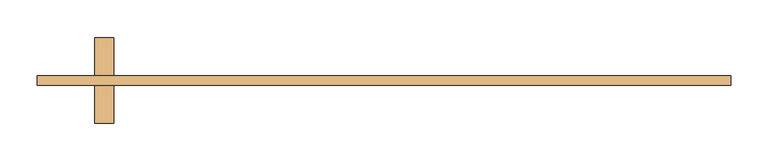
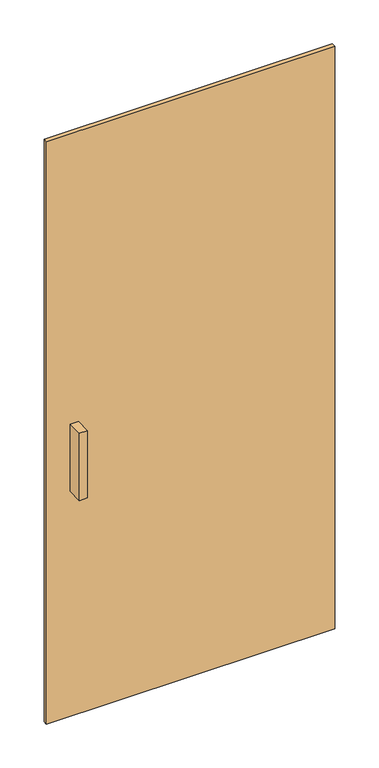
"""IFC4 building model written with IfcOpenShell, lengths in millimetres: door geometry, M_Dveře, obvodový plášť, jednoduché zasklení : M_Dveře, obvodový plášť, jednoduché zasklení."""

import ifcopenshell
import ifcopenshell.guid

model = None  # the IFC model being written
_history = None  # IfcOwnerHistory: only IFC2X3 demands one
_inside = {}  # id of a spatial element -> (the spatial element, [elements in it])
_under = {}  # id of a project, library or spatial element -> (it, [spatial elements below it])
_declared = {}  # id of a project -> (the project, [libraries it declares])
_typed = {}  # id of a type object -> (the type object, [elements of that type])
_made_of = {}  # id of a material, layer set ... -> (it, [elements and type objects made of it])


def new_model(schema):
    """Start an empty IFC model of exactly this schema.

    Asked for "IFC4X3", IfcOpenShell would pick the latest addendum, in which some entities
    have other attributes; the version numbers below select the first issue.
    IFC2X3 requires an IfcOwnerHistory on every rooted entity: one is made here for all.
    """
    global model, _history
    if schema == "IFC4X3":
        model = ifcopenshell.file(schema_version=(4, 3, 0, 0))
    else:
        model = ifcopenshell.file(schema=schema)
    _inside.clear()
    _under.clear()
    _declared.clear()
    _typed.clear()
    _made_of.clear()
    _history = None
    if model.schema == "IFC2X3":
        org = make("IfcOrganization", Name="unknown")
        user = make(
            "IfcPersonAndOrganization",
            ThePerson=make("IfcPerson", FamilyName="unknown"),
            TheOrganization=org,
        )
        app = make(
            "IfcApplication",
            ApplicationDeveloper=org,
            Version="unknown",
            ApplicationFullName="unknown",
            ApplicationIdentifier="unknown",
        )
        _history = make(
            "IfcOwnerHistory",
            OwningUser=user,
            OwningApplication=app,
            ChangeAction="ADDED",
            CreationDate=0,
        )
    return model


def make(cls, **values):
    """One entity of the class cls with the attributes given. An attribute that is None is left unset."""
    return model.create_entity(
        cls, **{name: value for name, value in values.items() if value is not None}
    )


def rooted(cls, **values):
    """An entity with a GlobalId (a new one), such as an element, a storey or a relation."""
    return make(cls, GlobalId=ifcopenshell.guid.new(), OwnerHistory=_history, **values)


def si_unit(unit_type, name, prefix=None):
    """IfcSIUnit, for example si_unit("LENGTHUNIT", "METRE", prefix="MILLI")."""
    return make("IfcSIUnit", UnitType=unit_type, Prefix=prefix, Name=name)


def assignment(units):
    """IfcUnitAssignment: the units of a project."""
    return None if units is None else make("IfcUnitAssignment", Units=units)


def point(xyz):
    """IfcCartesianPoint."""
    return None if xyz is None else make("IfcCartesianPoint", Coordinates=xyz)


def direction(xyz):
    """IfcDirection."""
    return None if xyz is None else make("IfcDirection", DirectionRatios=xyz)


def frame(location, z_axis=None, x_axis=None):
    """IfcAxis2Placement3D, a coordinate frame: its origin and axes. An axis left out is left unset."""
    return make(
        "IfcAxis2Placement3D",
        Location=point(location),
        Axis=direction(z_axis),
        RefDirection=direction(x_axis),
    )


def origin():
    """The frame at (0, 0, 0) with its axes left unset."""
    return frame((0.0, 0.0, 0.0))


def origin_with_axes():
    """The frame at (0, 0, 0) with the z axis (0, 0, 1) and the x axis (1, 0, 0) written out."""
    return frame((0.0, 0.0, 0.0), z_axis=(0.0, 0.0, 1.0), x_axis=(1.0, 0.0, 0.0))


def place(relative_to, where):
    """IfcLocalPlacement: puts the frame where relative to a parent placement (None: the world)."""
    return make(
        "IfcLocalPlacement", PlacementRelTo=relative_to, RelativePlacement=where
    )


def context(
    kind, dimensions, precision=None, world=None, true_north=None, identifier=None
):
    """IfcGeometricRepresentationContext, for example the 3D "Model" context."""
    return make(
        "IfcGeometricRepresentationContext",
        ContextIdentifier=identifier,
        ContextType=kind,
        CoordinateSpaceDimension=dimensions,
        Precision=precision,
        WorldCoordinateSystem=world,
        TrueNorth=true_north,
    )


def project(units=None, contexts=None):
    """IfcProject with its units and contexts."""
    return rooted(
        "IfcProject",
        Name="project",
        RepresentationContexts=contexts,
        UnitsInContext=assignment(units),
    )


def spatial(cls, under=None, at=None, **own):
    """A site, building, storey or space (cls), placed at a placement, below another one or the project."""
    s = rooted(cls, ObjectPlacement=at, **own)
    if under is not None:
        _under.setdefault(under.id(), (under, []))[1].append(s)
    return s


def polyline(points):
    """IfcPolyline through the points."""
    return make("IfcPolyline", Points=[point(p) for p in points])


def outline(outer, holes=None, kind="AREA"):
    """IfcArbitraryClosedProfileDef: a profile drawn as a closed curve; with holes, ...WithVoids."""
    if holes is None:
        return make("IfcArbitraryClosedProfileDef", ProfileType=kind, OuterCurve=outer)
    return make(
        "IfcArbitraryProfileDefWithVoids",
        ProfileType=kind,
        OuterCurve=outer,
        InnerCurves=holes,
    )


def extrude(swept, where, along, depth):
    """IfcExtrudedAreaSolid: the profile swept, set in the frame where, extruded along a direction by depth."""
    return make(
        "IfcExtrudedAreaSolid",
        SweptArea=swept,
        Position=where,
        ExtrudedDirection=direction(along),
        Depth=depth,
    )


def shape(context_of_items, identifier, shape_type, items):
    """IfcShapeRepresentation: the items that make up one representation, for example the "Body"."""
    return make(
        "IfcShapeRepresentation",
        ContextOfItems=context_of_items,
        RepresentationIdentifier=identifier,
        RepresentationType=shape_type,
        Items=items,
    )


def source(mapping_origin, context_of_items, identifier, shape_type, items):
    """IfcRepresentationMap: a shape defined once, which mapped items show again and again."""
    return make(
        "IfcRepresentationMap",
        MappingOrigin=mapping_origin,
        MappedRepresentation=shape(context_of_items, identifier, shape_type, items),
    )


def transform(
    local_origin,
    x_axis=None,
    y_axis=None,
    z_axis=None,
    scale=None,
    scale2=None,
    scale3=None,
    uniform=True,
):
    """IfcCartesianTransformationOperator3D, or its non-uniform kind. x_axis, y_axis, z_axis: its Axis1, 2, 3."""
    if uniform:
        return make(
            "IfcCartesianTransformationOperator3D",
            Axis1=direction(x_axis),
            Axis2=direction(y_axis),
            LocalOrigin=point(local_origin),
            Scale=scale,
            Axis3=direction(z_axis),
        )
    return make(
        "IfcCartesianTransformationOperator3DnonUniform",
        Axis1=direction(x_axis),
        Axis2=direction(y_axis),
        LocalOrigin=point(local_origin),
        Scale=scale,
        Axis3=direction(z_axis),
        Scale2=scale2,
        Scale3=scale3,
    )


def mapped(mapping_source, mapping_target):
    """IfcMappedItem: shows the shape of a source again, moved by a transform."""
    return make(
        "IfcMappedItem", MappingSource=mapping_source, MappingTarget=mapping_target
    )


def made_of(thing, what):
    """Note that an element or type object is made of a material, layer set ...; save() writes the relation."""
    if what is not None:
        _made_of.setdefault(what.id(), (what, []))[1].append(thing)
    return thing


def element(
    cls,
    number,
    at=None,
    inside=None,
    cuts=None,
    type_object=None,
    material=None,
    context=None,
    identifier="Body",
    shape_type=None,
    held_by="IfcProductDefinitionShape",
    body=None,
    shapes=None,
    **own,
):
    """One element of the class cls, such as IfcWall. Its Tag is "e" and its number.

    at: its placement. inside: the storey or other place that contains it. cuts: it is an
    opening in that element (IfcRelVoidsElement). A single representation is given by context,
    identifier, shape_type and body (its items); several are given by shapes. held_by: the class
    of the entity that holds the representations. save() writes the other relations.
    """
    e = rooted(cls, Tag="e%d" % number, ObjectPlacement=at, **own)
    if body is not None:
        shapes = [shape(context, identifier, shape_type, body)]
    if shapes is not None:
        e.Representation = make(held_by, Representations=shapes)
    if inside is not None:
        _inside.setdefault(inside.id(), (inside, []))[1].append(e)
    if cuts is not None:
        rooted(
            "IfcRelVoidsElement", RelatingBuildingElement=cuts, RelatedOpeningElement=e
        )
    if type_object is not None:
        _typed.setdefault(type_object.id(), (type_object, []))[1].append(e)
    return made_of(e, material)


def aggregate(whole, parts):
    """IfcRelAggregates: a whole, such as a stair, and the parts it consists of."""
    return rooted("IfcRelAggregates", RelatingObject=whole, RelatedObjects=parts)


def save(model, path):
    """Write the relations noted so far, then the file.

    IfcRelAggregates (storeys below a building ...), IfcRelContainedInSpatialStructure (elements
    in a storey), IfcRelDefinesByType, IfcRelAssociatesMaterial and IfcRelDeclares: one each for
    every whole, place, type object, material and project.
    """
    for whole, parts in _under.values():
        aggregate(whole, parts)
    for where, things in _inside.values():
        rooted(
            "IfcRelContainedInSpatialStructure",
            RelatedElements=things,
            RelatingStructure=where,
        )
    for kind, things in _typed.values():
        rooted("IfcRelDefinesByType", RelatedObjects=things, RelatingType=kind)
    for what, things in _made_of.values():
        rooted("IfcRelAssociatesMaterial", RelatedObjects=things, RelatingMaterial=what)
    for by, libraries in _declared.values():
        rooted("IfcRelDeclares", RelatingContext=by, RelatedDefinitions=libraries)
    model.write(path)


def door_ff0059c9(model_context):
    return source(origin(), model_context, "Body", "SweptSolid", [
        extrude(outline(polyline([(462.5, -50.8), (-462.5, -50.8), (-462.5, -38.1), (462.5, -38.1), (462.5, -50.8)])), origin_with_axes(), (0.0, 0.0, 1.0), 1975.0),
        extrude(outline(polyline([(-386.3, -101.6), (-386.3, -50.8), (-360.9, -50.8), (-360.9, -101.6), (-386.3, -101.6)])), frame((0.0, 0.0, 762.0), z_axis=(0.0, 0.0, 1.0), x_axis=(1.0, 0.0, 0.0)), (0.0, 0.0, 1.0), 228.6),
        extrude(outline(polyline([(-360.9, 12.7), (-360.9, -38.1), (-386.3, -38.1), (-386.3, 12.7), (-360.9, 12.7)])), frame((0.0, 0.0, 762.0), z_axis=(0.0, 0.0, 1.0), x_axis=(1.0, 0.0, 0.0)), (0.0, 0.0, 1.0), 228.6),
    ])


if __name__ == "__main__":
    model = new_model("IFC4")
    model_context = context("Model", 3, world=origin())
    ifc_project = project(units=[si_unit("LENGTHUNIT", "METRE", prefix="MILLI")], contexts=[model_context])
    site = spatial("IfcSite", under=ifc_project)
    building = spatial("IfcBuilding", under=site)
    placement = place(None, origin())
    door_shape = door_ff0059c9(model_context)
    element("IfcDoor", 1, ObjectType="M_Dveře, obvodový plášť, jednoduché zasklení : M_Dveře, obvodový plášť, jednoduché zasklení", at=placement, inside=building, context=model_context, shape_type="MappedRepresentation", body=[
        mapped(door_shape, transform((0.0, 0.0, 0.0), x_axis=(1.0, 0.0, 0.0), y_axis=(0.0, 1.0, 0.0), z_axis=(0.0, 0.0, 1.0))),
    ])
    save(model, "model.ifc")
